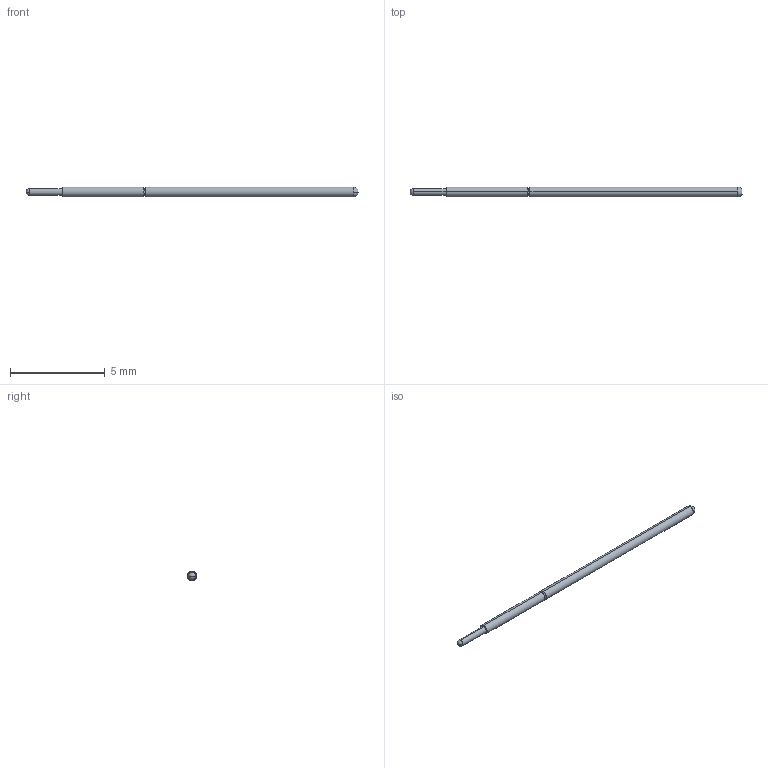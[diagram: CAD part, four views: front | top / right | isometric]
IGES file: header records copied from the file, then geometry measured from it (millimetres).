
Start section: SolidWorks IGES file using analytic representation for surfaces
Global section: file name: Z:\probe solid model mockups\Solidworks models\MEP-30 IGS files\MEP-30J.IGS; native system: SolidWorks 2006 by SolidWorks Corporation; preprocessor: SolidWorks 2006 by SolidWorks Corporation; author: tsakatani; date: 071219.101459; units: inch
Bounding box: 17.53 x 0.51 x 0.51 mm (x, y, z)
Surface area: 27.3 mm2 (no closed solid volume)
Topology: 0 solids, 0 shells, 16 faces, 112 edges, 110 vertices
Faces by surface type: revolution 10, bspline 6
